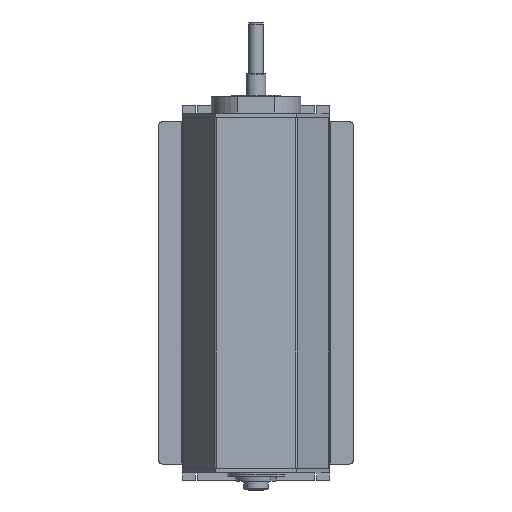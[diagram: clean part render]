
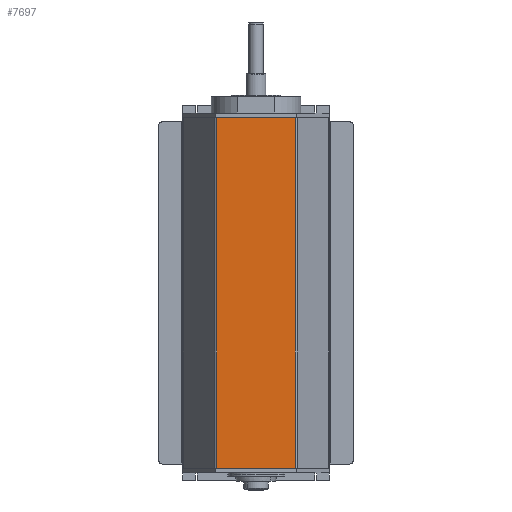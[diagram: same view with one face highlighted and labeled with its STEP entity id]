
A CAD part, front view. The second image highlights one B-rep face of the part: STEP entity #7697.
In plain terms, the highlighted planar face has unit normal (0, -1, 0).
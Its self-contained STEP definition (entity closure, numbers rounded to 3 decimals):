
#81 = EDGE_CURVE ( 'NONE', #13679, #13185, #18300, .T. ) ;
#711 = LINE ( 'NONE', #12387, #4424 ) ;
#849 = CARTESIAN_POINT ( 'NONE',  ( -48.268, 0., -215.5 ) ) ;
#4424 = VECTOR ( 'NONE', #17077, 1000. ) ;
#4695 = LINE ( 'NONE', #18264, #6925 ) ;
#5459 = ORIENTED_EDGE ( 'NONE', *, *, #13109, .T. ) ;
#6150 = FACE_OUTER_BOUND ( 'NONE', #14572, .T. ) ;
#6453 = CARTESIAN_POINT ( 'NONE',  ( -48.268, 0., 215.5 ) ) ;
#6757 = ORIENTED_EDGE ( 'NONE', *, *, #14424, .T. ) ;
#6925 = VECTOR ( 'NONE', #10275, 1000. ) ;
#7235 = LINE ( 'NONE', #10424, #14529 ) ;
#7697 = ADVANCED_FACE ( 'NONE', ( #6150 ), #19608, .F. ) ;
#7878 = ORIENTED_EDGE ( 'NONE', *, *, #81, .F. ) ;
#7969 = ORIENTED_EDGE ( 'NONE', *, *, #11755, .T. ) ;
#10135 = DIRECTION ( 'NONE',  ( 0., 1., 0. ) ) ;
#10275 = DIRECTION ( 'NONE',  ( -1., 0., 0. ) ) ;
#10424 = CARTESIAN_POINT ( 'NONE',  ( -48.268, 0., 504.779 ) ) ;
#11612 = CARTESIAN_POINT ( 'NONE',  ( -50., 0., 504.779 ) ) ;
#11755 = EDGE_CURVE ( 'NONE', #12810, #18461, #7235, .T. ) ;
#11998 = CARTESIAN_POINT ( 'NONE',  ( 48.268, 0., 215.5 ) ) ;
#12387 = CARTESIAN_POINT ( 'NONE',  ( -50., 0., -215.5 ) ) ;
#12515 = VECTOR ( 'NONE', #18195, 1000. ) ;
#12810 = VERTEX_POINT ( 'NONE', #6453 ) ;
#13109 = EDGE_CURVE ( 'NONE', #13679, #12810, #4695, .T. ) ;
#13185 = VERTEX_POINT ( 'NONE', #20227 ) ;
#13679 = VERTEX_POINT ( 'NONE', #11998 ) ;
#14424 = EDGE_CURVE ( 'NONE', #18461, #13185, #711, .T. ) ;
#14529 = VECTOR ( 'NONE', #18624, 1000. ) ;
#14572 = EDGE_LOOP ( 'NONE', ( #5459, #7969, #6757, #7878 ) ) ;
#14756 = CARTESIAN_POINT ( 'NONE',  ( 48.268, 0., 504.779 ) ) ;
#16223 = DIRECTION ( 'NONE',  ( -1., 0., 0. ) ) ;
#16266 = AXIS2_PLACEMENT_3D ( 'NONE', #11612, #10135, #16223 ) ;
#17077 = DIRECTION ( 'NONE',  ( 1., 0., 0. ) ) ;
#18195 = DIRECTION ( 'NONE',  ( 0., 0., -1. ) ) ;
#18264 = CARTESIAN_POINT ( 'NONE',  ( -50., 0., 215.5 ) ) ;
#18300 = LINE ( 'NONE', #14756, #12515 ) ;
#18461 = VERTEX_POINT ( 'NONE', #849 ) ;
#18624 = DIRECTION ( 'NONE',  ( 0., 0., -1. ) ) ;
#19608 = PLANE ( 'NONE',  #16266 ) ;
#20227 = CARTESIAN_POINT ( 'NONE',  ( 48.268, 0., -215.5 ) ) ;
